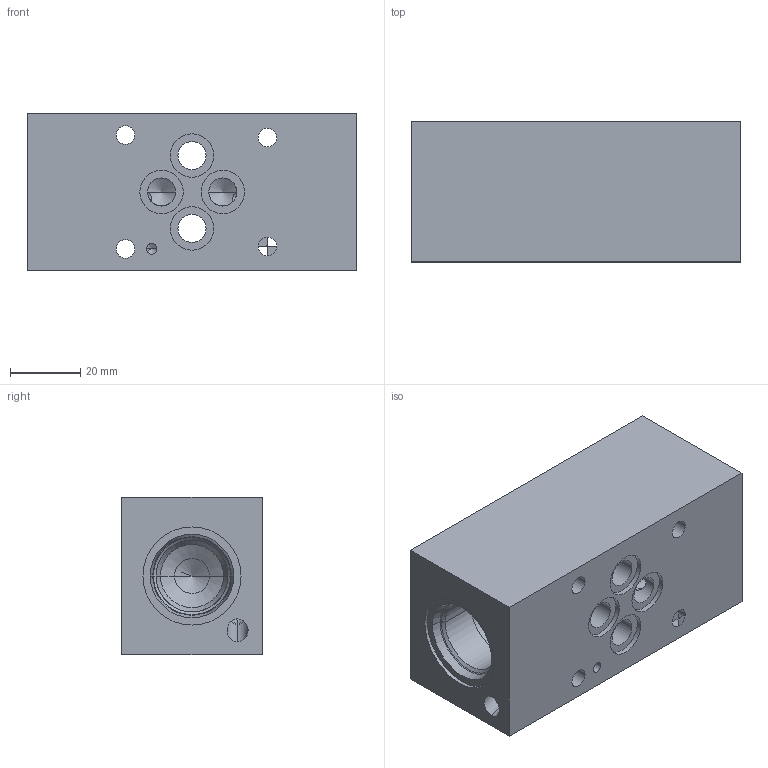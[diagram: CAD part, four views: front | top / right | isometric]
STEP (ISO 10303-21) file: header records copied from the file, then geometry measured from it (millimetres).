
FILE_DESCRIPTION((''),'2;1');
FILE_NAME('20692500','2023-10-12T',('l.soukupova'),(''),'PRO/ENGINEER BY PARAMETRIC TECHNOLOGY CORPORATION, 2015440','PRO/ENGINEER BY PARAMETRIC TECHNOLOGY CORPORATION, 2015440','');
FILE_SCHEMA(('AUTOMOTIVE_DESIGN { 1 0 10303 214 1 1 1 1 }'));
Length unit declared in the file: millimetre
Products named in the file (1): 20692500
Bounding box: 94 x 40 x 45 mm (x, y, z)
Volume: 133989.8 mm3; surface area: 32446.1 mm2
Topology: 1 solids, 5 shells, 129 faces, 484 edges, 423 vertices
Faces by surface type: cylinder 72, cone 41, plane 16
Entity records: 8111 total; most frequent: CARTESIAN_POINT 1878, DIRECTION 887, ORIENTED_EDGE 638, PRESENTATION_STYLE_ASSIGNMENT 571, STYLED_ITEM 523, CURVE_STYLE 519, EDGE_CURVE 327, AXIS2_PLACEMENT_3D 325
